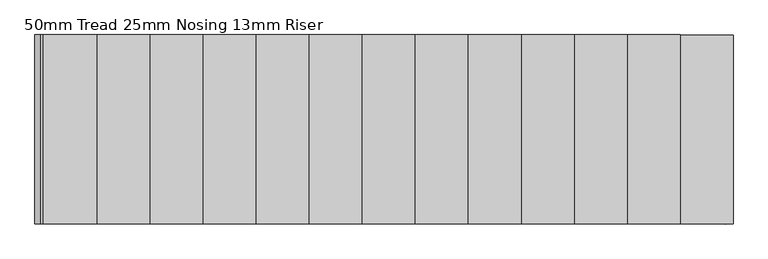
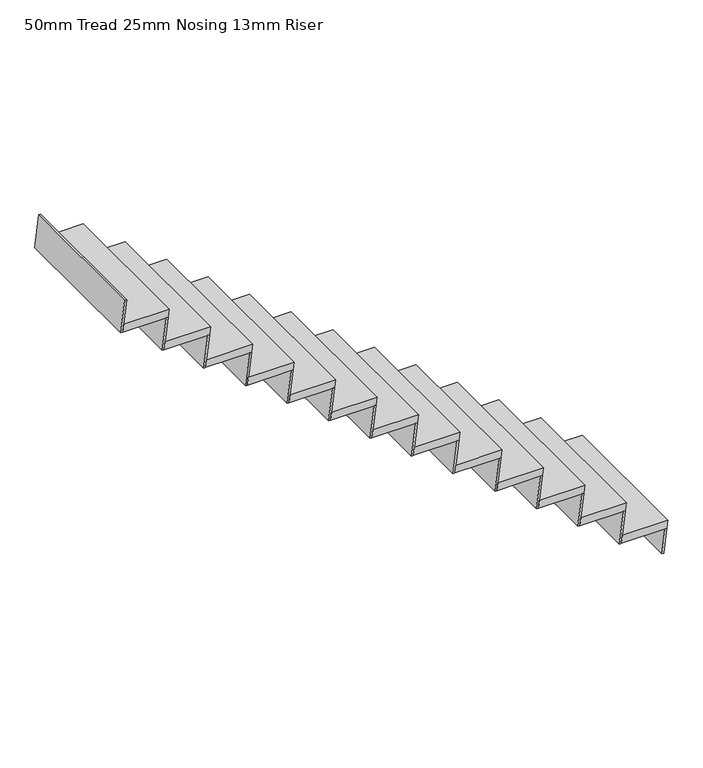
"""IFC4 building model written with IfcOpenShell, lengths in millimetres: stair flight geometry, 50mm Tread 25mm Nosing 13mm Riser."""

from ifc_helpers import new_model, si_unit, frame, origin, place, context, project, spatial, polyline, outline, extrude, source, transform, mapped, element, save


def stair_flight_50mm_tread_25mm_nosing_13mm_riser_e6984ea6(model_context):
    return source(origin(), model_context, "Body", "SweptSolid", [
        extrude(outline(polyline([(206.8285714, 2274.261797), (206.8285714, 1989.8585634), (156.8285714, 1983.814911), (156.8285714, 2268.2181446), (206.8285714, 2274.261797)])), frame((0.0, -6280.7961647, 0.0), z_axis=(0.0, 1.0, 0.0), x_axis=(0.0, 0.0, 1.0)), (0.0, 0.0, 1.0), 927.1),
        extrude(outline(polyline([(156.8285714, 2268.2181446), (156.8285714, 2255.6271614), (0.0, 2236.6708138), (0.0, 2249.261797), (156.8285714, 2268.2181446)])), frame((0.0, -6280.7961647, 0.0), z_axis=(0.0, 1.0, 0.0), x_axis=(0.0, 0.0, 1.0)), (0.0, 0.0, 1.0), 927.1),
        extrude(outline(polyline([(363.6571429, 2008.814911), (363.6571429, 1996.2239277), (156.8285714, 1971.2239277), (156.8285714, 1983.814911), (363.6571429, 2008.814911)])), frame((0.0, -6280.7961647, 0.0), z_axis=(0.0, 1.0, 0.0), x_axis=(0.0, 0.0, 1.0)), (0.0, 0.0, 1.0), 927.1),
        extrude(outline(polyline([(413.6571429, 2014.8585634), (413.6571429, 1730.4553298), (363.6571429, 1724.4116773), (363.6571429, 2008.814911), (413.6571429, 2014.8585634)])), frame((0.0, -6280.7961647, 0.0), z_axis=(0.0, 1.0, 0.0), x_axis=(0.0, 0.0, 1.0)), (0.0, 0.0, 1.0), 927.1),
        extrude(outline(polyline([(570.4857143, 1749.4116773), (570.4857143, 1736.8206941), (363.6571429, 1711.8206941), (363.6571429, 1724.4116773), (570.4857143, 1749.4116773)])), frame((0.0, -6280.7961647, 0.0), z_axis=(0.0, 1.0, 0.0), x_axis=(0.0, 0.0, 1.0)), (0.0, 0.0, 1.0), 927.1),
        extrude(outline(polyline([(620.4857143, 1755.4553298), (620.4857143, 1471.0520961), (570.4857143, 1465.0084437), (570.4857143, 1749.4116773), (620.4857143, 1755.4553298)])), frame((0.0, -6280.7961647, 0.0), z_axis=(0.0, 1.0, 0.0), x_axis=(0.0, 0.0, 1.0)), (0.0, 0.0, 1.0), 927.1),
        extrude(outline(polyline([(777.3142857, 1490.0084437), (777.3142857, 1477.4174605), (570.4857143, 1452.4174605), (570.4857143, 1465.0084437), (777.3142857, 1490.0084437)])), frame((0.0, -6280.7961647, 0.0), z_axis=(0.0, 1.0, 0.0), x_axis=(0.0, 0.0, 1.0)), (0.0, 0.0, 1.0), 927.1),
        extrude(outline(polyline([(827.3142857, 1496.0520961), (827.3142857, 1211.6488625), (777.3142857, 1205.6052101), (777.3142857, 1490.0084437), (827.3142857, 1496.0520961)])), frame((0.0, -6280.7961647, 0.0), z_axis=(0.0, 1.0, 0.0), x_axis=(0.0, 0.0, 1.0)), (0.0, 0.0, 1.0), 927.1),
        extrude(outline(polyline([(984.1428571, 1230.6052101), (984.1428571, 1218.0142268), (777.3142857, 1193.0142268), (777.3142857, 1205.6052101), (984.1428571, 1230.6052101)])), frame((0.0, -6280.7961647, 0.0), z_axis=(0.0, 1.0, 0.0), x_axis=(0.0, 0.0, 1.0)), (0.0, 0.0, 1.0), 927.1),
        extrude(outline(polyline([(1034.1428571, 1236.6488625), (1034.1428571, 952.2456289), (984.1428571, 946.2019764), (984.1428571, 1230.6052101), (1034.1428571, 1236.6488625)])), frame((0.0, -6280.7961647, 0.0), z_axis=(0.0, 1.0, 0.0), x_axis=(0.0, 0.0, 1.0)), (0.0, 0.0, 1.0), 927.1),
        extrude(outline(polyline([(1190.9714286, 971.2019764), (1190.9714286, 958.6109932), (984.1428571, 933.6109932), (984.1428571, 946.2019764), (1190.9714286, 971.2019764)])), frame((0.0, -6280.7961647, 0.0), z_axis=(0.0, 1.0, 0.0), x_axis=(0.0, 0.0, 1.0)), (0.0, 0.0, 1.0), 927.1),
        extrude(outline(polyline([(1240.9714286, 977.2456289), (1240.9714286, 692.8423952), (1190.9714286, 686.7987428), (1190.9714286, 971.2019764), (1240.9714286, 977.2456289)])), frame((0.0, -6280.7961647, 0.0), z_axis=(0.0, 1.0, 0.0), x_axis=(0.0, 0.0, 1.0)), (0.0, 0.0, 1.0), 927.1),
        extrude(outline(polyline([(1397.8, 711.7987428), (1397.8, 699.2077596), (1190.9714286, 674.2077596), (1190.9714286, 686.7987428), (1397.8, 711.7987428)])), frame((0.0, -6280.7961647, 0.0), z_axis=(0.0, 1.0, 0.0), x_axis=(0.0, 0.0, 1.0)), (0.0, 0.0, 1.0), 927.1),
        extrude(outline(polyline([(1447.8, 717.8423952), (1447.8, 433.4391616), (1397.8, 427.3955092), (1397.8, 711.7987428), (1447.8, 717.8423952)])), frame((0.0, -6280.7961647, 0.0), z_axis=(0.0, 1.0, 0.0), x_axis=(0.0, 0.0, 1.0)), (0.0, 0.0, 1.0), 927.1),
        extrude(outline(polyline([(1604.6285714, 452.3955092), (1604.6285714, 439.804526), (1397.8, 414.804526), (1397.8, 427.3955092), (1604.6285714, 452.3955092)])), frame((0.0, -6280.7961647, 0.0), z_axis=(0.0, 1.0, 0.0), x_axis=(0.0, 0.0, 1.0)), (0.0, 0.0, 1.0), 927.1),
        extrude(outline(polyline([(1654.6285714, 458.4391616), (1654.6285714, 174.035928), (1604.6285714, 167.9922755), (1604.6285714, 452.3955092), (1654.6285714, 458.4391616)])), frame((0.0, -6280.7961647, 0.0), z_axis=(0.0, 1.0, 0.0), x_axis=(0.0, 0.0, 1.0)), (0.0, 0.0, 1.0), 927.1),
        extrude(outline(polyline([(1811.4571429, 192.9922755), (1811.4571429, 180.4012923), (1604.6285714, 155.4012923), (1604.6285714, 167.9922755), (1811.4571429, 192.9922755)])), frame((0.0, -6280.7961647, 0.0), z_axis=(0.0, 1.0, 0.0), x_axis=(0.0, 0.0, 1.0)), (0.0, 0.0, 1.0), 927.1),
        extrude(outline(polyline([(1861.4571429, 199.035928), (1861.4571429, -85.3673056), (1811.4571429, -91.4109581), (1811.4571429, 192.9922755), (1861.4571429, 199.035928)])), frame((0.0, -6280.7961647, 0.0), z_axis=(0.0, 1.0, 0.0), x_axis=(0.0, 0.0, 1.0)), (0.0, 0.0, 1.0), 927.1),
        extrude(outline(polyline([(2018.2857143, -66.4109581), (2018.2857143, -79.0019413), (1811.4571429, -104.0019413), (1811.4571429, -91.4109581), (2018.2857143, -66.4109581)])), frame((0.0, -6280.7961647, 0.0), z_axis=(0.0, 1.0, 0.0), x_axis=(0.0, 0.0, 1.0)), (0.0, 0.0, 1.0), 927.1),
        extrude(outline(polyline([(2068.2857143, -60.3673056), (2068.2857143, -344.7705393), (2018.2857143, -350.8141917), (2018.2857143, -66.4109581), (2068.2857143, -60.3673056)])), frame((0.0, -6280.7961647, 0.0), z_axis=(0.0, 1.0, 0.0), x_axis=(0.0, 0.0, 1.0)), (0.0, 0.0, 1.0), 927.1),
        extrude(outline(polyline([(2225.1142857, -325.8141917), (2225.1142857, -338.4051749), (2018.2857143, -363.4051749), (2018.2857143, -350.8141917), (2225.1142857, -325.8141917)])), frame((0.0, -6280.7961647, 0.0), z_axis=(0.0, 1.0, 0.0), x_axis=(0.0, 0.0, 1.0)), (0.0, 0.0, 1.0), 927.1),
        extrude(outline(polyline([(2275.1142857, -319.7705393), (2275.1142857, -604.1737729), (2225.1142857, -610.2174253), (2225.1142857, -325.8141917), (2275.1142857, -319.7705393)])), frame((0.0, -6280.7961647, 0.0), z_axis=(0.0, 1.0, 0.0), x_axis=(0.0, 0.0, 1.0)), (0.0, 0.0, 1.0), 927.1),
        extrude(outline(polyline([(2431.9428571, -585.2174253), (2431.9428571, -597.8084086), (2225.1142857, -622.8084086), (2225.1142857, -610.2174253), (2431.9428571, -585.2174253)])), frame((0.0, -6280.7961647, 0.0), z_axis=(0.0, 1.0, 0.0), x_axis=(0.0, 0.0, 1.0)), (0.0, 0.0, 1.0), 927.1),
        extrude(outline(polyline([(2481.9428571, -579.1737729), (2481.9428571, -863.5770065), (2431.9428571, -869.620659), (2431.9428571, -585.2174253), (2481.9428571, -579.1737729)])), frame((0.0, -6280.7961647, 0.0), z_axis=(0.0, 1.0, 0.0), x_axis=(0.0, 0.0, 1.0)), (0.0, 0.0, 1.0), 927.1),
        extrude(outline(polyline([(2638.7714286, -844.620659), (2638.7714286, -857.2116422), (2431.9428571, -882.2116422), (2431.9428571, -869.620659), (2638.7714286, -844.620659)])), frame((0.0, -6280.7961647, 0.0), z_axis=(0.0, 1.0, 0.0), x_axis=(0.0, 0.0, 1.0)), (0.0, 0.0, 1.0), 927.1),
        extrude(outline(polyline([(2845.6, -1104.0238926), (2845.6, -1116.6148758), (2638.7714286, -1141.6148758), (2638.7714286, -1129.0238926), (2845.6, -1104.0238926)])), frame((0.0, -6280.7961647, 0.0), z_axis=(0.0, 1.0, 0.0), x_axis=(0.0, 0.0, 1.0)), (0.0, 0.0, 1.0), 927.1),
        extrude(outline(polyline([(2688.7714286, -838.5770065), (2688.7714286, -1122.9802402), (2638.7714286, -1129.0238926), (2638.7714286, -844.620659), (2688.7714286, -838.5770065)])), frame((0.0, -6280.7961647, 0.0), z_axis=(0.0, 1.0, 0.0), x_axis=(0.0, 0.0, 1.0)), (0.0, 0.0, 1.0), 927.1),
    ])


if __name__ == "__main__":
    model = new_model("IFC4")
    model_context = context("Model", 3, world=origin())
    ifc_project = project(units=[si_unit("LENGTHUNIT", "METRE", prefix="MILLI")], contexts=[model_context])
    site = spatial("IfcSite", under=ifc_project)
    building = spatial("IfcBuilding", under=site)
    placement = place(None, origin())
    stair_flight_50mm_tread_25mm_nosing_13mm_riser_shape = stair_flight_50mm_tread_25mm_nosing_13mm_riser_e6984ea6(model_context)
    element("IfcStairFlight", 1, ObjectType="50mm Tread 25mm Nosing 13mm Riser", at=placement, inside=building, context=model_context, shape_type="MappedRepresentation", body=[
        mapped(stair_flight_50mm_tread_25mm_nosing_13mm_riser_shape, transform((0.0, 0.0, 0.0), x_axis=(1.0, 0.0, 0.0), y_axis=(0.0, 1.0, 0.0), z_axis=(0.0, 0.0, 1.0))),
    ])
    save(model, "model.ifc")
